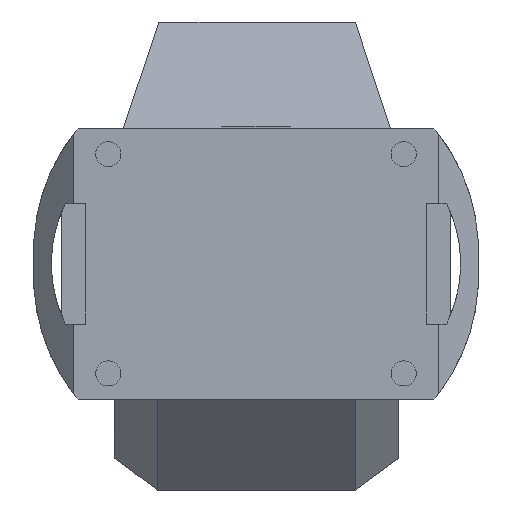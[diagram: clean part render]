
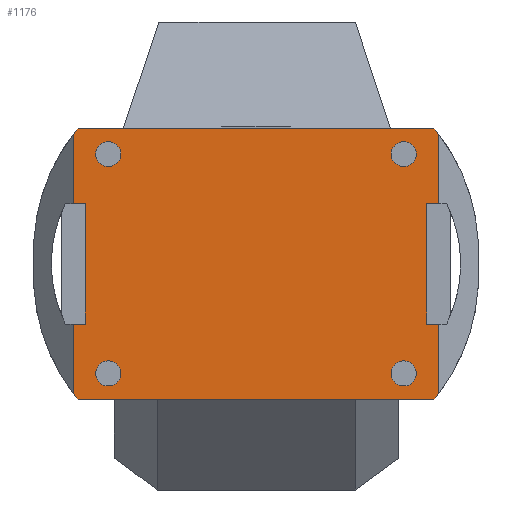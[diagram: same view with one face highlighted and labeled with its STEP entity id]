
A CAD part, front view. The second image highlights one B-rep face of the part: STEP entity #1176.
In plain terms, the highlighted planar face has unit normal (0, -1, 0).
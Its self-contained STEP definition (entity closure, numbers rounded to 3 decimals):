
#37=FACE_BOUND('',#218,.T.);
#38=FACE_BOUND('',#219,.T.);
#39=FACE_BOUND('',#220,.T.);
#40=FACE_BOUND('',#221,.T.);
#84=PLANE('',#1376);
#146=FACE_OUTER_BOUND('',#217,.T.);
#217=EDGE_LOOP('',(#937,#938,#939,#940,#941,#942,#943,#944,#945,#946,#947,
#948,#949,#950,#951,#952));
#218=EDGE_LOOP('',(#953));
#219=EDGE_LOOP('',(#954));
#220=EDGE_LOOP('',(#955));
#221=EDGE_LOOP('',(#956));
#286=LINE('',#1842,#408);
#293=LINE('',#1874,#415);
#301=LINE('',#1895,#423);
#303=LINE('',#1907,#425);
#305=LINE('',#1911,#427);
#311=LINE('',#1927,#433);
#314=LINE('',#1934,#436);
#317=LINE('',#1948,#439);
#318=LINE('',#1950,#440);
#323=LINE('',#1964,#445);
#324=LINE('',#1965,#446);
#325=LINE('',#1967,#447);
#408=VECTOR('',#1488,10.);
#415=VECTOR('',#1519,10.);
#423=VECTOR('',#1537,10.);
#425=VECTOR('',#1551,10.);
#427=VECTOR('',#1555,10.);
#433=VECTOR('',#1571,10.);
#436=VECTOR('',#1580,10.);
#439=VECTOR('',#1595,10.);
#440=VECTOR('',#1598,10.);
#445=VECTOR('',#1611,10.);
#446=VECTOR('',#1612,10.);
#447=VECTOR('',#1613,10.);
#513=CIRCLE('',#1327,12.018);
#515=CIRCLE('',#1336,185.863);
#517=CIRCLE('',#1340,12.018);
#518=CIRCLE('',#1349,185.863);
#520=CIRCLE('',#1353,12.018);
#521=CIRCLE('',#1364,185.863);
#522=CIRCLE('',#1367,12.018);
#524=CIRCLE('',#1377,185.863);
#544=VERTEX_POINT('',#1820);
#550=VERTEX_POINT('',#1836);
#552=VERTEX_POINT('',#1840);
#553=VERTEX_POINT('',#1844);
#555=VERTEX_POINT('',#1847);
#559=VERTEX_POINT('',#1857);
#564=VERTEX_POINT('',#1871);
#565=VERTEX_POINT('',#1873);
#567=VERTEX_POINT('',#1879);
#571=VERTEX_POINT('',#1886);
#575=VERTEX_POINT('',#1899);
#576=VERTEX_POINT('',#1904);
#577=VERTEX_POINT('',#1906);
#583=VERTEX_POINT('',#1926);
#584=VERTEX_POINT('',#1930);
#585=VERTEX_POINT('',#1936);
#588=VERTEX_POINT('',#1945);
#589=VERTEX_POINT('',#1947);
#594=VERTEX_POINT('',#1963);
#595=VERTEX_POINT('',#1966);
#657=EDGE_CURVE('',#544,#544,#513,.T.);
#667=EDGE_CURVE('',#550,#552,#286,.T.);
#669=EDGE_CURVE('',#555,#553,#515,.T.);
#675=EDGE_CURVE('',#559,#559,#517,.T.);
#681=EDGE_CURVE('',#564,#565,#293,.T.);
#688=EDGE_CURVE('',#571,#567,#518,.T.);
#692=EDGE_CURVE('',#571,#555,#301,.T.);
#695=EDGE_CURVE('',#575,#575,#520,.T.);
#697=EDGE_CURVE('',#577,#576,#303,.T.);
#700=EDGE_CURVE('',#550,#553,#305,.T.);
#708=EDGE_CURVE('',#577,#583,#311,.T.);
#711=EDGE_CURVE('',#584,#576,#521,.T.);
#712=EDGE_CURVE('',#583,#552,#314,.T.);
#713=EDGE_CURVE('',#585,#585,#522,.T.);
#718=EDGE_CURVE('',#588,#589,#317,.T.);
#720=EDGE_CURVE('',#564,#567,#318,.T.);
#727=EDGE_CURVE('',#588,#594,#323,.T.);
#728=EDGE_CURVE('',#594,#565,#324,.T.);
#729=EDGE_CURVE('',#595,#584,#325,.T.);
#730=EDGE_CURVE('',#595,#589,#524,.T.);
#937=ORIENTED_EDGE('',*,*,#727,.T.);
#938=ORIENTED_EDGE('',*,*,#728,.T.);
#939=ORIENTED_EDGE('',*,*,#681,.F.);
#940=ORIENTED_EDGE('',*,*,#720,.T.);
#941=ORIENTED_EDGE('',*,*,#688,.F.);
#942=ORIENTED_EDGE('',*,*,#692,.T.);
#943=ORIENTED_EDGE('',*,*,#669,.T.);
#944=ORIENTED_EDGE('',*,*,#700,.F.);
#945=ORIENTED_EDGE('',*,*,#667,.T.);
#946=ORIENTED_EDGE('',*,*,#712,.F.);
#947=ORIENTED_EDGE('',*,*,#708,.F.);
#948=ORIENTED_EDGE('',*,*,#697,.T.);
#949=ORIENTED_EDGE('',*,*,#711,.F.);
#950=ORIENTED_EDGE('',*,*,#729,.F.);
#951=ORIENTED_EDGE('',*,*,#730,.T.);
#952=ORIENTED_EDGE('',*,*,#718,.F.);
#953=ORIENTED_EDGE('',*,*,#675,.F.);
#954=ORIENTED_EDGE('',*,*,#657,.T.);
#955=ORIENTED_EDGE('',*,*,#695,.F.);
#956=ORIENTED_EDGE('',*,*,#713,.T.);
#1176=ADVANCED_FACE('',(#146,#37,#38,#39,#40),#84,.T.);
#1327=AXIS2_PLACEMENT_3D('',#1821,#1468,#1469);
#1336=AXIS2_PLACEMENT_3D('',#1848,#1493,#1494);
#1340=AXIS2_PLACEMENT_3D('',#1859,#1504,#1505);
#1349=AXIS2_PLACEMENT_3D('',#1888,#1530,#1531);
#1353=AXIS2_PLACEMENT_3D('',#1901,#1543,#1544);
#1364=AXIS2_PLACEMENT_3D('',#1932,#1576,#1577);
#1367=AXIS2_PLACEMENT_3D('',#1937,#1583,#1584);
#1376=AXIS2_PLACEMENT_3D('',#1962,#1609,#1610);
#1377=AXIS2_PLACEMENT_3D('',#1968,#1614,#1615);
#1468=DIRECTION('center_axis',(0.,1.,0.));
#1469=DIRECTION('ref_axis',(-1.,0.,0.));
#1488=DIRECTION('',(-1.,0.,0.));
#1493=DIRECTION('center_axis',(0.,-1.,0.));
#1494=DIRECTION('ref_axis',(0.998,0.,0.061));
#1504=DIRECTION('center_axis',(0.,-1.,0.));
#1505=DIRECTION('ref_axis',(1.,0.,0.));
#1519=DIRECTION('',(1.,0.,0.));
#1530=DIRECTION('center_axis',(0.,1.,0.));
#1531=DIRECTION('ref_axis',(-0.998,0.,0.061));
#1537=DIRECTION('',(1.,0.,0.));
#1543=DIRECTION('center_axis',(0.,-1.,0.));
#1544=DIRECTION('ref_axis',(-1.,0.,0.));
#1551=DIRECTION('',(0.,0.,1.));
#1555=DIRECTION('',(0.,0.,-1.));
#1571=DIRECTION('',(-1.,0.,0.));
#1576=DIRECTION('center_axis',(0.,1.,0.));
#1577=DIRECTION('ref_axis',(0.998,0.,-0.061));
#1580=DIRECTION('',(0.,0.,-1.));
#1583=DIRECTION('center_axis',(0.,1.,0.));
#1584=DIRECTION('ref_axis',(1.,0.,0.));
#1595=DIRECTION('',(0.,0.,1.));
#1598=DIRECTION('',(0.,0.,-1.));
#1609=DIRECTION('center_axis',(0.,-1.,0.));
#1610=DIRECTION('ref_axis',(1.,0.,0.));
#1611=DIRECTION('',(1.,0.,0.));
#1612=DIRECTION('',(0.,0.,-1.));
#1613=DIRECTION('',(1.,0.,0.));
#1614=DIRECTION('center_axis',(0.,-1.,0.));
#1615=DIRECTION('ref_axis',(-0.998,0.,-0.061));
#1820=CARTESIAN_POINT('',(153.518,-1.756,-105.));
#1821=CARTESIAN_POINT('Origin',(141.5,-1.756,-105.));
#1836=CARTESIAN_POINT('',(174.989,-1.756,-57.701));
#1840=CARTESIAN_POINT('',(163.584,-1.756,-57.701));
#1842=CARTESIAN_POINT('',(169.287,-1.756,-57.701));
#1844=CARTESIAN_POINT('',(174.989,-1.756,-124.027));
#1847=CARTESIAN_POINT('',(170.403,-1.756,-129.804));
#1848=CARTESIAN_POINT('Origin',(27.165,-1.756,-11.364));
#1857=CARTESIAN_POINT('',(-153.518,-1.756,-105.));
#1859=CARTESIAN_POINT('Origin',(-141.5,-1.756,-105.));
#1871=CARTESIAN_POINT('',(-174.989,-1.756,-57.701));
#1873=CARTESIAN_POINT('',(-163.584,-1.756,-57.701));
#1874=CARTESIAN_POINT('',(-169.287,-1.756,-57.701));
#1879=CARTESIAN_POINT('',(-174.989,-1.756,-124.027));
#1886=CARTESIAN_POINT('',(-170.403,-1.756,-129.804));
#1888=CARTESIAN_POINT('Origin',(-27.165,-1.756,-11.364));
#1895=CARTESIAN_POINT('',(0.,-1.756,-129.804));
#1899=CARTESIAN_POINT('',(153.518,-1.756,105.));
#1901=CARTESIAN_POINT('Origin',(141.5,-1.756,105.));
#1904=CARTESIAN_POINT('',(174.989,-1.756,124.027));
#1906=CARTESIAN_POINT('',(174.989,-1.756,57.701));
#1907=CARTESIAN_POINT('',(174.989,-1.756,0.));
#1911=CARTESIAN_POINT('',(174.989,-1.756,0.));
#1926=CARTESIAN_POINT('',(163.584,-1.756,57.701));
#1927=CARTESIAN_POINT('',(169.287,-1.756,57.701));
#1930=CARTESIAN_POINT('',(170.403,-1.756,129.804));
#1932=CARTESIAN_POINT('Origin',(27.165,-1.756,11.364));
#1934=CARTESIAN_POINT('',(163.584,-1.756,0.));
#1936=CARTESIAN_POINT('',(-153.518,-1.756,105.));
#1937=CARTESIAN_POINT('Origin',(-141.5,-1.756,105.));
#1945=CARTESIAN_POINT('',(-174.989,-1.756,57.701));
#1947=CARTESIAN_POINT('',(-174.989,-1.756,124.027));
#1948=CARTESIAN_POINT('',(-174.989,-1.756,0.));
#1950=CARTESIAN_POINT('',(-174.989,-1.756,0.));
#1962=CARTESIAN_POINT('Origin',(-174.989,-1.756,0.));
#1963=CARTESIAN_POINT('',(-163.584,-1.756,57.701));
#1964=CARTESIAN_POINT('',(-169.287,-1.756,57.701));
#1965=CARTESIAN_POINT('',(-163.584,-1.756,0.));
#1966=CARTESIAN_POINT('',(-170.403,-1.756,129.804));
#1967=CARTESIAN_POINT('',(0.,-1.756,129.804));
#1968=CARTESIAN_POINT('Origin',(-27.165,-1.756,11.364));
